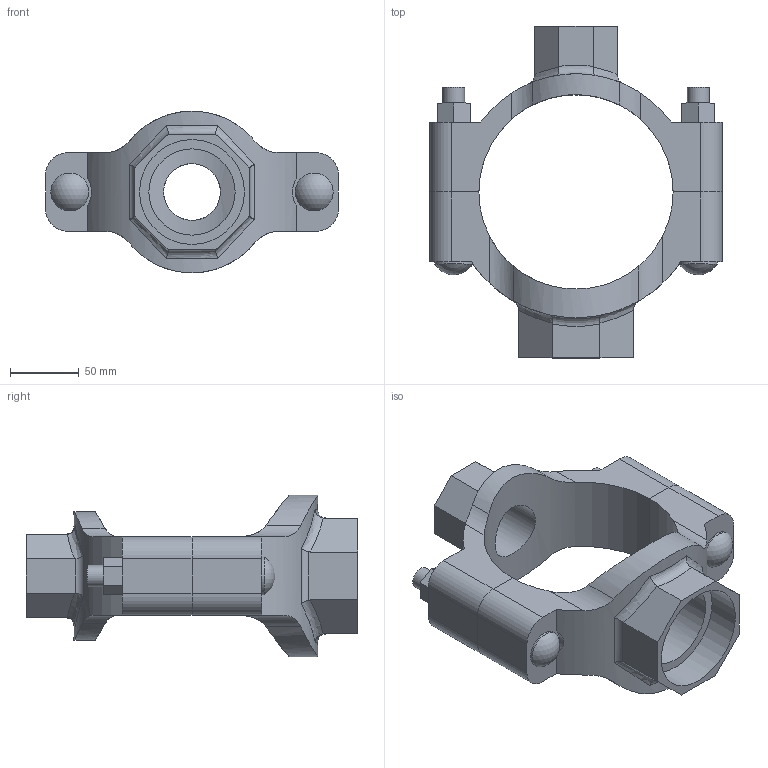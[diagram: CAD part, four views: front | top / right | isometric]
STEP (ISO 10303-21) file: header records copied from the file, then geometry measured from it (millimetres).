
FILE_DESCRIPTION(/* description */ ('VIC MECH-T BRANCH OUTLET CROSS STYLE 920N (THD)','CAx-IF Rec.Pracs.---Representation and Presentation of Product Manufacturing Information (PMI)---4.0---2014-10-13'),/* implementation_level */ '2;1');
FILE_NAME(/* name */ 'C:\Users\Vjadhav\AppData\Roaming\Autodesk\ApplicationPlugins\Back Up\Victaulic_IPS_Mechanical-Cross Outlet_Style 920N (FPT)\Victaulic_IPS_Mechanical-Cross Outlet_05.0x01.5x02.5 (76.1) (125x40x65).stp',/* time_stamp */ '2020-08-06T18:59:01+05:00',/* author */ ('Vjadhav'),/* organization */ ('Victaulic'),/* preprocessor_version */ 'ST-DEVELOPER v17.2',/* originating_system */ 'Autodesk Inventor 2019',/* authorisation */ '');
FILE_SCHEMA (('AP242_MANAGED_MODEL_BASED_3D_ENGINEERING_MIM_LF { 1 0 10303 442 1 1 4 }'));
Length unit declared in the file: inch
Products named in the file (3): 920NT-05.0x01.5x02.5 (76.1); 920T-05.0x01.5; 920T-05.0x02.5 (76.1)
Assembly tree (2 placements, depth 2):
  920NT-05.0x01.5x02.5 (76.1)
    920T-05.0x01.5
    920T-05.0x02.5 (76.1)
Bounding box: 212.85 x 241.3 x 117.56 mm (x, y, z)
Volume: 916125.9 mm3; surface area: 164322.4 mm2
Topology: 2 solids, 2 shells, 130 faces, 344 edges, 232 vertices
Faces by surface type: plane 68, cylinder 48, bspline 8, torus 4, sphere 2
Full cylindrical faces by diameter (mm): 15.875 x4, 27.496 x2, 41.275 x1, 48.26 x1, 62.738 x1, 76.2 x1
Entity records: 5096 total; most frequent: CARTESIAN_POINT 1637, ORIENTED_EDGE 688, DIRECTION 638, EDGE_CURVE 344, VERTEX_POINT 232, AXIS2_PLACEMENT_3D 227, LINE 184, VECTOR 184
